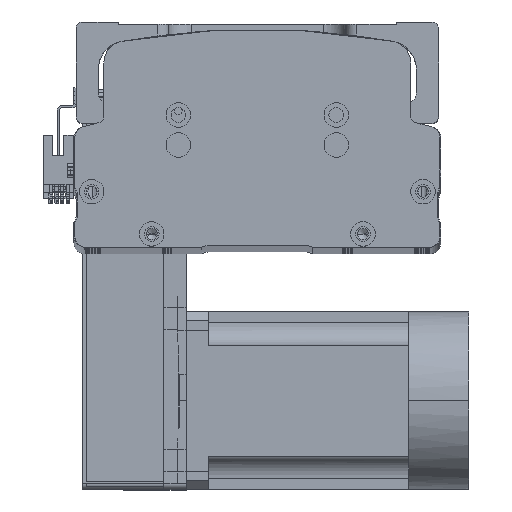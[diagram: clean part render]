
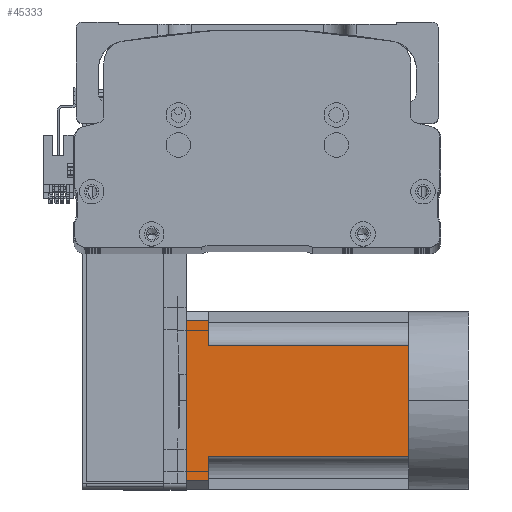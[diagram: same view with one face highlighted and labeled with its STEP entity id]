
A CAD part, top view. The second image highlights one B-rep face of the part: STEP entity #45333.
In plain terms, the highlighted planar face has unit normal (0, 0, 1) as drawn and (0, 0, -1) by its records, which use the part's own axes.
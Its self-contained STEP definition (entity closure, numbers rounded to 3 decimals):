
#1608 = EDGE_CURVE ( 'NONE', #31441, #11192, #23424, .T. ) ;
#3752 = CARTESIAN_POINT ( 'NONE',  ( -40., 100., -40. ) ) ;
#4146 = CARTESIAN_POINT ( 'NONE',  ( -36., 90., -40. ) ) ;
#5945 = VECTOR ( 'NONE', #22790, 1000. ) ;
#6362 = VECTOR ( 'NONE', #47030, 1000. ) ;
#6720 = VERTEX_POINT ( 'NONE', #28673 ) ;
#6884 = ORIENTED_EDGE ( 'NONE', *, *, #8980, .T. ) ;
#7566 = ORIENTED_EDGE ( 'NONE', *, *, #44575, .T. ) ;
#7793 = DIRECTION ( 'NONE',  ( 0., -1., 0. ) ) ;
#7922 = DIRECTION ( 'NONE',  ( 0., 1., 0. ) ) ;
#8446 = EDGE_CURVE ( 'NONE', #6720, #12281, #60402, .T. ) ;
#8449 = EDGE_CURVE ( 'NONE', #49679, #31441, #35576, .T. ) ;
#8980 = EDGE_CURVE ( 'NONE', #19182, #12281, #9141, .T. ) ;
#9141 = LINE ( 'NONE', #42781, #49642 ) ;
#10957 = ORIENTED_EDGE ( 'NONE', *, *, #8449, .T. ) ;
#11120 = DIRECTION ( 'NONE',  ( 0., 1., 0. ) ) ;
#11192 = VERTEX_POINT ( 'NONE', #13370 ) ;
#11274 = EDGE_CURVE ( 'NONE', #6720, #50182, #38486, .T. ) ;
#12281 = VERTEX_POINT ( 'NONE', #17627 ) ;
#13370 = CARTESIAN_POINT ( 'NONE',  ( -25., 90., -40. ) ) ;
#13608 = DIRECTION ( 'NONE',  ( 0., -1., 0. ) ) ;
#13853 = CARTESIAN_POINT ( 'NONE',  ( 36., -27., -40. ) ) ;
#14122 = AXIS2_PLACEMENT_3D ( 'NONE', #51343, #30310, #67297 ) ;
#17527 = VERTEX_POINT ( 'NONE', #64236 ) ;
#17627 = CARTESIAN_POINT ( 'NONE',  ( -36., 100., -40. ) ) ;
#18236 = VECTOR ( 'NONE', #51364, 1000. ) ;
#19182 = VERTEX_POINT ( 'NONE', #4146 ) ;
#20379 = VECTOR ( 'NONE', #7793, 1000. ) ;
#21006 = ORIENTED_EDGE ( 'NONE', *, *, #36674, .T. ) ;
#22790 = DIRECTION ( 'NONE',  ( -1., 0., 0. ) ) ;
#23161 = ORIENTED_EDGE ( 'NONE', *, *, #62103, .T. ) ;
#23424 = LINE ( 'NONE', #34009, #35818 ) ;
#25839 = LINE ( 'NONE', #66695, #52300 ) ;
#28673 = CARTESIAN_POINT ( 'NONE',  ( 36., 100., -40. ) ) ;
#29181 = CARTESIAN_POINT ( 'NONE',  ( 36., 90., -40. ) ) ;
#30310 = DIRECTION ( 'NONE',  ( 0., 0., -1. ) ) ;
#31441 = VERTEX_POINT ( 'NONE', #31515 ) ;
#31515 = CARTESIAN_POINT ( 'NONE',  ( -25., 0., -40. ) ) ;
#34009 = CARTESIAN_POINT ( 'NONE',  ( -25., -27., -40. ) ) ;
#34061 = LINE ( 'NONE', #38443, #5945 ) ;
#34392 = LINE ( 'NONE', #55216, #20379 ) ;
#35470 = CARTESIAN_POINT ( 'NONE',  ( 0., 0., -40. ) ) ;
#35576 = LINE ( 'NONE', #51143, #18236 ) ;
#35818 = VECTOR ( 'NONE', #7922, 1000. ) ;
#36408 = CARTESIAN_POINT ( 'NONE',  ( -40., 90., -40. ) ) ;
#36674 = EDGE_CURVE ( 'NONE', #50182, #39338, #46880, .T. ) ;
#36867 = VECTOR ( 'NONE', #13608, 1000. ) ;
#37245 = FACE_OUTER_BOUND ( 'NONE', #42576, .T. ) ;
#38443 = CARTESIAN_POINT ( 'NONE',  ( -40., 0., -40. ) ) ;
#38486 = LINE ( 'NONE', #13853, #36867 ) ;
#39338 = VERTEX_POINT ( 'NONE', #63938 ) ;
#41078 = ORIENTED_EDGE ( 'NONE', *, *, #11274, .T. ) ;
#41671 = ORIENTED_EDGE ( 'NONE', *, *, #1608, .T. ) ;
#42576 = EDGE_LOOP ( 'NONE', ( #64398, #41078, #21006, #23161, #7566, #10957, #41671, #52928, #6884 ) ) ;
#42781 = CARTESIAN_POINT ( 'NONE',  ( -36., -27., -40. ) ) ;
#44575 = EDGE_CURVE ( 'NONE', #17527, #49679, #34061, .T. ) ;
#44685 = EDGE_CURVE ( 'NONE', #11192, #19182, #25839, .T. ) ;
#45333 = ADVANCED_FACE ( 'NONE', ( #37245 ), #56663, .T. ) ;
#46324 = VECTOR ( 'NONE', #61781, 1000. ) ;
#46880 = LINE ( 'NONE', #36408, #6362 ) ;
#47030 = DIRECTION ( 'NONE',  ( -1., 0., 0. ) ) ;
#49642 = VECTOR ( 'NONE', #11120, 1000. ) ;
#49679 = VERTEX_POINT ( 'NONE', #35470 ) ;
#50182 = VERTEX_POINT ( 'NONE', #29181 ) ;
#51143 = CARTESIAN_POINT ( 'NONE',  ( -40., 0., -40. ) ) ;
#51343 = CARTESIAN_POINT ( 'NONE',  ( -40., -27., -40. ) ) ;
#51364 = DIRECTION ( 'NONE',  ( -1., 0., 0. ) ) ;
#52300 = VECTOR ( 'NONE', #61364, 1000. ) ;
#52928 = ORIENTED_EDGE ( 'NONE', *, *, #44685, .T. ) ;
#55216 = CARTESIAN_POINT ( 'NONE',  ( 25., -27., -40. ) ) ;
#56663 = PLANE ( 'NONE',  #14122 ) ;
#60402 = LINE ( 'NONE', #3752, #46324 ) ;
#61364 = DIRECTION ( 'NONE',  ( -1., 0., 0. ) ) ;
#61781 = DIRECTION ( 'NONE',  ( -1., 0., 0. ) ) ;
#62103 = EDGE_CURVE ( 'NONE', #39338, #17527, #34392, .T. ) ;
#63938 = CARTESIAN_POINT ( 'NONE',  ( 25., 90., -40. ) ) ;
#64236 = CARTESIAN_POINT ( 'NONE',  ( 25., 0., -40. ) ) ;
#64398 = ORIENTED_EDGE ( 'NONE', *, *, #8446, .F. ) ;
#66695 = CARTESIAN_POINT ( 'NONE',  ( -40., 90., -40. ) ) ;
#67297 = DIRECTION ( 'NONE',  ( -1., 0., 0. ) ) ;
